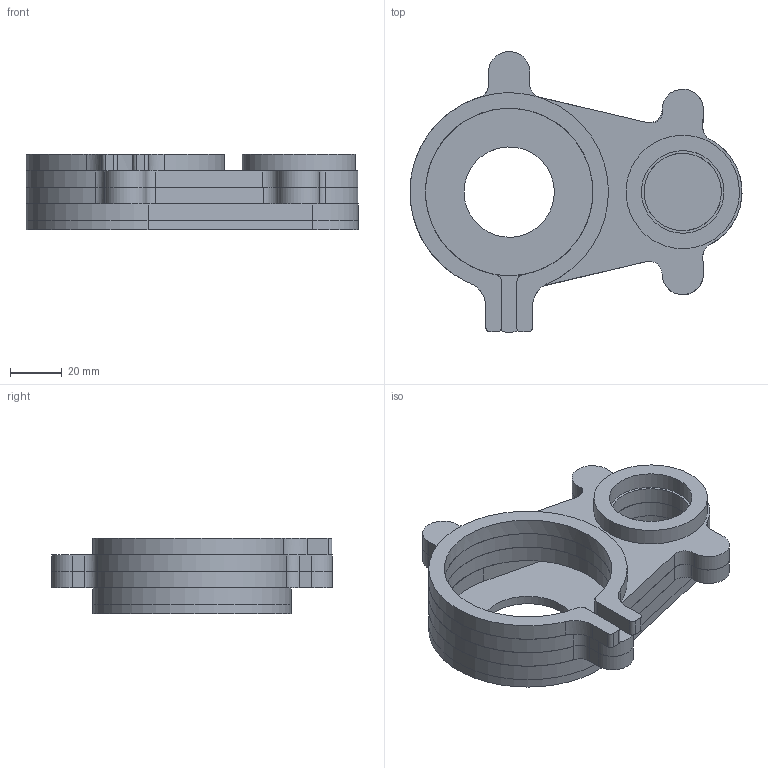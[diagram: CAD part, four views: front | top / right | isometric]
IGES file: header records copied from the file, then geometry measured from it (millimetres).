
Global section: file name: dust shoe v2 v14; native system: unknown; preprocessor: unknown; author: unknown; organization: unknown; date: 20230704.110358; units: millimetre
Bounding box: 128.79 x 108.96 x 29.1 mm (x, y, z)
Volume: 102012.1 mm3; surface area: 59106.9 mm2
Topology: 6 solids, 6 shells, 115 faces, 273 edges, 182 vertices
Faces by surface type: bspline 115
